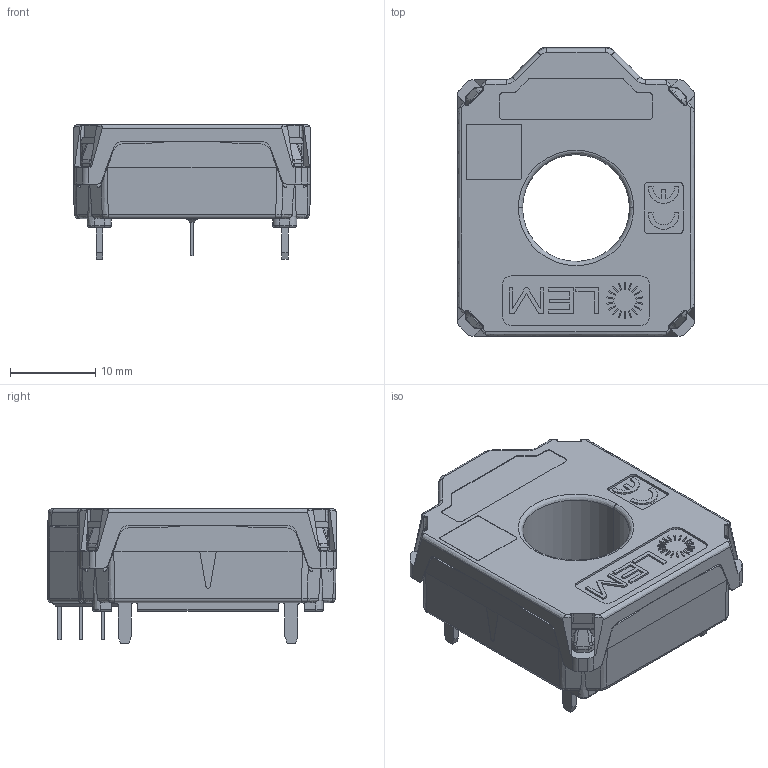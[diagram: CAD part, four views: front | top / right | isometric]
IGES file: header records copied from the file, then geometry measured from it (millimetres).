
Start section: Elysium IGES Interface
Global section: file name: C:\Users\smo\Desktop\111111111111\HC5FW_XXX-S-SP1_20140324\HC5FW_XXX-S-SP1_20140324.igs; native system: Creo Elements/Direct Modeling 17.0E  05-Feb-2012; preprocessor: Creo Element/Direct IGES_3D V2.2; author: Unknown; organization: Unknown; date: 20140325.090048; units: millimetre
Bounding box: 27.7 x 33.75 x 15.76 mm (x, y, z)
Volume: 8073.6 mm3; surface area: 4183.8 mm2
Topology: 1 solids, 19 shells, 1003 faces, 2679 edges, 1738 vertices
Faces by surface type: bspline 1003
